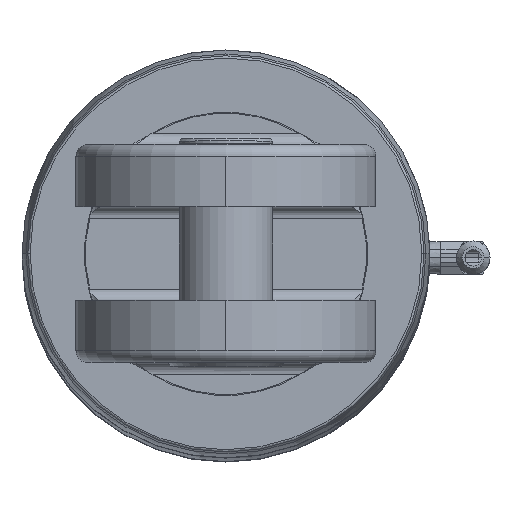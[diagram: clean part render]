
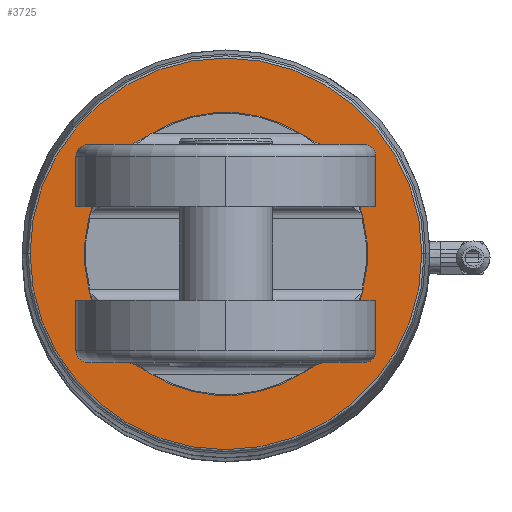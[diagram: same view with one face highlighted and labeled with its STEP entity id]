
A CAD part, top view. The second image highlights one B-rep face of the part: STEP entity #3725.
In plain terms, the highlighted planar face has unit normal (0, 0, 1).
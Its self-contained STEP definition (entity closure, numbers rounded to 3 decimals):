
#64 = CARTESIAN_POINT ( 'NONE',  ( 58.508, -15., 1041.81 ) ) ;
#85 = AXIS2_PLACEMENT_3D ( 'NONE', #5254, #2422, #8113 ) ;
#204 = DIRECTION ( 'NONE',  ( 1., 0., 0. ) ) ;
#285 = VERTEX_POINT ( 'NONE', #1895 ) ;
#486 = CARTESIAN_POINT ( 'NONE',  ( -58.508, -15., 1041.81 ) ) ;
#582 = CARTESIAN_POINT ( 'NONE',  ( 0., 0., 1041.81 ) ) ;
#606 = CARTESIAN_POINT ( 'NONE',  ( 0., 0., 1041.81 ) ) ;
#657 = EDGE_LOOP ( 'NONE', ( #7772, #7154 ) ) ;
#840 = EDGE_CURVE ( 'NONE', #3613, #2187, #5923, .T. ) ;
#1087 = CARTESIAN_POINT ( 'NONE',  ( -58.508, 15., 1041.81 ) ) ;
#1114 = CARTESIAN_POINT ( 'NONE',  ( 58.508, 15., 1041.81 ) ) ;
#1147 = CIRCLE ( 'NONE', #4803, 60.4 ) ;
#1184 = CARTESIAN_POINT ( 'NONE',  ( 0., 0., 1041.81 ) ) ;
#1238 = EDGE_CURVE ( 'NONE', #285, #4983, #1147, .T. ) ;
#1388 = CIRCLE ( 'NONE', #6784, 60.4 ) ;
#1472 = DIRECTION ( 'NONE',  ( 0., 0., -1. ) ) ;
#1482 = DIRECTION ( 'NONE',  ( 0., -1., 0. ) ) ;
#1513 = DIRECTION ( 'NONE',  ( 0., 0., 1. ) ) ;
#1530 = AXIS2_PLACEMENT_3D ( 'NONE', #4379, #2801, #204 ) ;
#1531 = EDGE_CURVE ( 'NONE', #7003, #6811, #5491, .T. ) ;
#1626 = CARTESIAN_POINT ( 'NONE',  ( 0., 0., 1041.81 ) ) ;
#1653 = ORIENTED_EDGE ( 'NONE', *, *, #1838, .T. ) ;
#1694 = CIRCLE ( 'NONE', #4423, 60.4 ) ;
#1704 = DIRECTION ( 'NONE',  ( 0., -1., 0. ) ) ;
#1782 = CARTESIAN_POINT ( 'NONE',  ( 0., 0., 1041.81 ) ) ;
#1838 = EDGE_CURVE ( 'NONE', #4983, #3613, #2265, .T. ) ;
#1886 = ORIENTED_EDGE ( 'NONE', *, *, #4189, .T. ) ;
#1895 = CARTESIAN_POINT ( 'NONE',  ( 31.558, -51.5, 1041.81 ) ) ;
#1952 = DIRECTION ( 'NONE',  ( 1., 0., 0. ) ) ;
#2063 = VERTEX_POINT ( 'NONE', #7273 ) ;
#2187 = VERTEX_POINT ( 'NONE', #1087 ) ;
#2265 = CIRCLE ( 'NONE', #3892, 60.4 ) ;
#2286 = EDGE_CURVE ( 'NONE', #6213, #6901, #6831, .T. ) ;
#2305 = CARTESIAN_POINT ( 'NONE',  ( 0., 0., 1041.81 ) ) ;
#2422 = DIRECTION ( 'NONE',  ( 0., 0., -1. ) ) ;
#2801 = DIRECTION ( 'NONE',  ( 0., 0., 1. ) ) ;
#2896 = CIRCLE ( 'NONE', #6071, 60.4 ) ;
#3007 = CIRCLE ( 'NONE', #3151, 83.553 ) ;
#3151 = AXIS2_PLACEMENT_3D ( 'NONE', #1184, #4403, #3598 ) ;
#3174 = DIRECTION ( 'NONE',  ( 0., 0., -1. ) ) ;
#3243 = EDGE_CURVE ( 'NONE', #5594, #7003, #2896, .T. ) ;
#3530 = DIRECTION ( 'NONE',  ( 0., -1., 0. ) ) ;
#3598 = DIRECTION ( 'NONE',  ( 1., 0., 0. ) ) ;
#3613 = VERTEX_POINT ( 'NONE', #486 ) ;
#3725 = ADVANCED_FACE ( 'NONE', ( #7432, #7052 ), #6869, .T. ) ;
#3892 = AXIS2_PLACEMENT_3D ( 'NONE', #2305, #5070, #3530 ) ;
#4030 = CIRCLE ( 'NONE', #6692, 60.4 ) ;
#4086 = ORIENTED_EDGE ( 'NONE', *, *, #5101, .T. ) ;
#4118 = ORIENTED_EDGE ( 'NONE', *, *, #840, .T. ) ;
#4189 = EDGE_CURVE ( 'NONE', #6811, #285, #1388, .T. ) ;
#4300 = CARTESIAN_POINT ( 'NONE',  ( -31.558, -51.5, 1041.81 ) ) ;
#4379 = CARTESIAN_POINT ( 'NONE',  ( 0., 0., 1041.81 ) ) ;
#4403 = DIRECTION ( 'NONE',  ( 0., 0., 1. ) ) ;
#4423 = AXIS2_PLACEMENT_3D ( 'NONE', #582, #5111, #7873 ) ;
#4443 = DIRECTION ( 'NONE',  ( 0., 0., -1. ) ) ;
#4582 = DIRECTION ( 'NONE',  ( 1., 0., 0. ) ) ;
#4803 = AXIS2_PLACEMENT_3D ( 'NONE', #5310, #3174, #4582 ) ;
#4983 = VERTEX_POINT ( 'NONE', #4300 ) ;
#4995 = CARTESIAN_POINT ( 'NONE',  ( 31.558, 51.5, 1041.81 ) ) ;
#5038 = ORIENTED_EDGE ( 'NONE', *, *, #3243, .T. ) ;
#5070 = DIRECTION ( 'NONE',  ( 0., 0., -1. ) ) ;
#5072 = ORIENTED_EDGE ( 'NONE', *, *, #5926, .T. ) ;
#5101 = EDGE_CURVE ( 'NONE', #2063, #5594, #1694, .T. ) ;
#5111 = DIRECTION ( 'NONE',  ( 0., 0., -1. ) ) ;
#5254 = CARTESIAN_POINT ( 'NONE',  ( 0., 0., 1041.81 ) ) ;
#5310 = CARTESIAN_POINT ( 'NONE',  ( 0., 0., 1041.81 ) ) ;
#5491 = CIRCLE ( 'NONE', #85, 60.4 ) ;
#5594 = VERTEX_POINT ( 'NONE', #4995 ) ;
#5829 = AXIS2_PLACEMENT_3D ( 'NONE', #1782, #1472, #7955 ) ;
#5923 = CIRCLE ( 'NONE', #5829, 60.4 ) ;
#5926 = EDGE_CURVE ( 'NONE', #2187, #2063, #4030, .T. ) ;
#6071 = AXIS2_PLACEMENT_3D ( 'NONE', #7296, #6642, #1704 ) ;
#6156 = CARTESIAN_POINT ( 'NONE',  ( -83.553, 0., 1041.81 ) ) ;
#6204 = ORIENTED_EDGE ( 'NONE', *, *, #1531, .T. ) ;
#6213 = VERTEX_POINT ( 'NONE', #7812 ) ;
#6335 = ORIENTED_EDGE ( 'NONE', *, *, #1238, .T. ) ;
#6437 = CARTESIAN_POINT ( 'NONE',  ( 0., 0., 1041.81 ) ) ;
#6492 = EDGE_CURVE ( 'NONE', #6901, #6213, #3007, .T. ) ;
#6642 = DIRECTION ( 'NONE',  ( 0., 0., -1. ) ) ;
#6692 = AXIS2_PLACEMENT_3D ( 'NONE', #1626, #4443, #1482 ) ;
#6784 = AXIS2_PLACEMENT_3D ( 'NONE', #6437, #7257, #7683 ) ;
#6811 = VERTEX_POINT ( 'NONE', #64 ) ;
#6831 = CIRCLE ( 'NONE', #8490, 83.553 ) ;
#6869 = PLANE ( 'NONE',  #1530 ) ;
#6901 = VERTEX_POINT ( 'NONE', #6156 ) ;
#7003 = VERTEX_POINT ( 'NONE', #1114 ) ;
#7052 = FACE_BOUND ( 'NONE', #8172, .T. ) ;
#7154 = ORIENTED_EDGE ( 'NONE', *, *, #6492, .T. ) ;
#7257 = DIRECTION ( 'NONE',  ( 0., 0., -1. ) ) ;
#7273 = CARTESIAN_POINT ( 'NONE',  ( -31.558, 51.5, 1041.81 ) ) ;
#7296 = CARTESIAN_POINT ( 'NONE',  ( 0., 0., 1041.81 ) ) ;
#7432 = FACE_OUTER_BOUND ( 'NONE', #657, .T. ) ;
#7683 = DIRECTION ( 'NONE',  ( 0., -1., 0. ) ) ;
#7772 = ORIENTED_EDGE ( 'NONE', *, *, #2286, .T. ) ;
#7812 = CARTESIAN_POINT ( 'NONE',  ( 83.553, 0., 1041.81 ) ) ;
#7873 = DIRECTION ( 'NONE',  ( 1., 0., 0. ) ) ;
#7955 = DIRECTION ( 'NONE',  ( 1., 0., 0. ) ) ;
#8113 = DIRECTION ( 'NONE',  ( 1., 0., 0. ) ) ;
#8172 = EDGE_LOOP ( 'NONE', ( #5038, #6204, #1886, #6335, #1653, #4118, #5072, #4086 ) ) ;
#8490 = AXIS2_PLACEMENT_3D ( 'NONE', #606, #1513, #1952 ) ;
